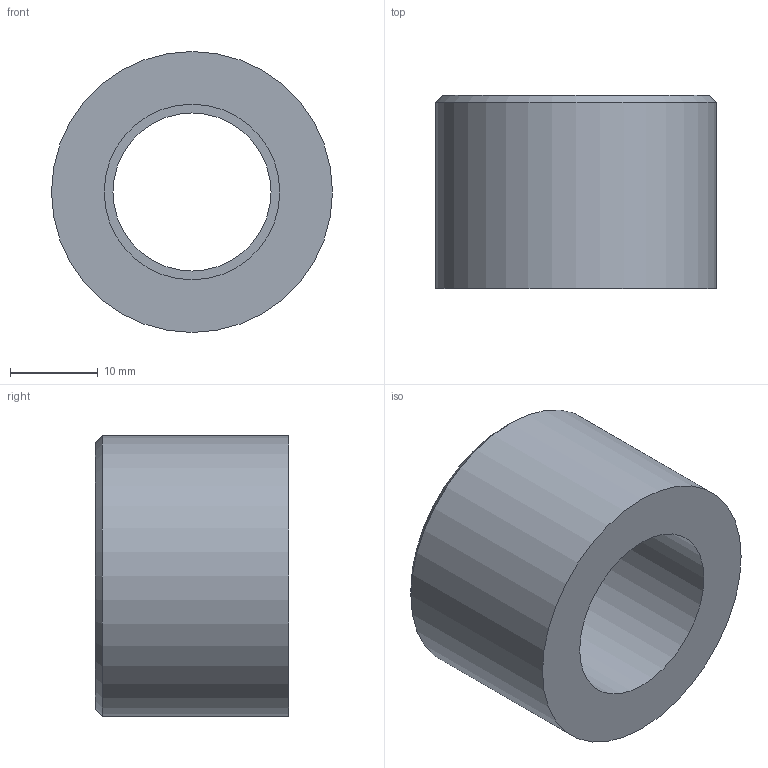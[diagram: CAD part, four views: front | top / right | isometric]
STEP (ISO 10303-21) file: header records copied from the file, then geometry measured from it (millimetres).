
FILE_DESCRIPTION(/* description */ ('PVC riduzione corta incollaggio metrica'),/* implementation_level */ '2;1');
FILE_NAME(/* name */ 'C:\Users\POLYPIPE\Desktop\DATASET INVENTOR\LIBRERIA EFFAST\RACCORDI 3DxWEB\RDR\3D_RDRRCD\3D_RDRRCD032B.stp',/* time_stamp */ '2018-01-19T15:29:11+01:00',/* author */ ('POLYPIPE'),/* organization */ ('Polypipe Italia s.r.l.'),/* preprocessor_version */ 'ST-DEVELOPER v16.1',/* originating_system */ 'Autodesk Inventor 2016',/* authorisation */ '');
FILE_SCHEMA (('CONFIG_CONTROL_DESIGN'));
Length unit declared in the file: millimetre
Products named in the file (1): 3D_RDRRCD
Bounding box: 32 x 22 x 32 mm (x, y, z)
Volume: 10718.9 mm3; surface area: 4507.4 mm2
Topology: 1 solids, 1 shells, 8 faces, 13 edges, 8 vertices
Faces by surface type: plane 3, cylinder 3, cone 2
Full cylindrical faces by diameter (mm): 18 x1, 20 x1, 32 x1
Entity records: 192 total; most frequent: DIRECTION 34, CARTESIAN_POINT 25, AXIS2_PLACEMENT_3D 17, EDGE_LOOP 16, ORIENTED_EDGE 16, FACE_BOUND 8, FACE_OUTER_BOUND 8, CIRCLE 8
